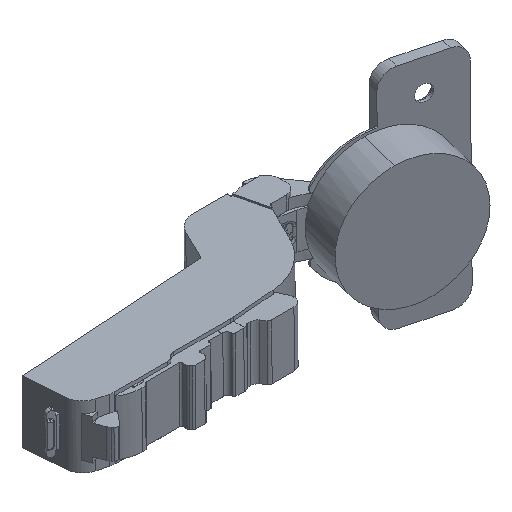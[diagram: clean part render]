
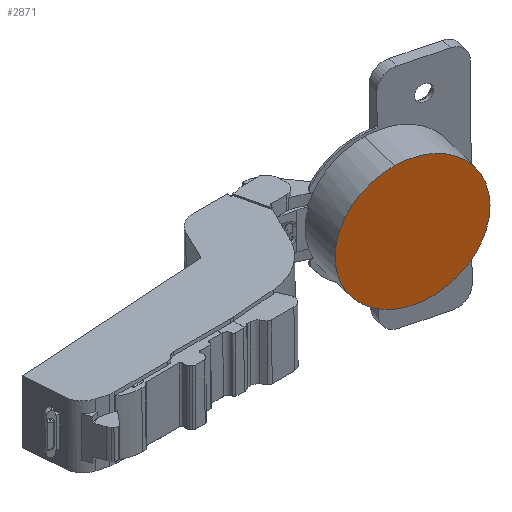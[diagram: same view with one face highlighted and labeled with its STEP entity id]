
A CAD part, isometric view. The second image highlights one B-rep face of the part: STEP entity #2871.
In plain terms, the highlighted planar face has unit normal (-0.254, -0.967, 0.009).
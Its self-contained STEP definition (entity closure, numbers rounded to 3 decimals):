
#414 = EDGE_CURVE ( 'NONE', #4063, #1382, #7794, .T. ) ;
#582 = CARTESIAN_POINT ( 'NONE',  ( 39.153, 10.463, -17.995 ) ) ;
#704 = CARTESIAN_POINT ( 'NONE',  ( 5.814, 19.253, -14.665 ) ) ;
#907 = CARTESIAN_POINT ( 'NONE',  ( 6.748, 19.038, -11.414 ) ) ;
#1382 = VERTEX_POINT ( 'NONE', #12870 ) ;
#1632 = VECTOR ( 'NONE', #11060, 1000. ) ;
#1983 = VERTEX_POINT ( 'NONE', #4012 ) ;
#2011 = CARTESIAN_POINT ( 'NONE',  ( 10.381, 18.136, -5.797 ) ) ;
#2186 = EDGE_LOOP ( 'NONE', ( #3211, #12777, #11459, #6386, #3529, #6508 ) ) ;
#2323 = DIRECTION ( 'NONE',  ( 0.967, -0.254, 0.002 ) ) ;
#2772 = CARTESIAN_POINT ( 'NONE',  ( 18.462, 15.739, -34.981 ) ) ;
#2871 = ADVANCED_FACE ( 'NONE', ( #13757 ), #12450, .F. ) ;
#2921 = CARTESIAN_POINT ( 'NONE',  ( 7.133, 18.945, -10.522 ) ) ;
#2987 = DIRECTION ( 'NONE',  ( 0.254, 0.967, -0.009 ) ) ;
#2994 = CARTESIAN_POINT ( 'NONE',  ( 17.555, 16.293, -1.355 ) ) ;
#3056 = CARTESIAN_POINT ( 'NONE',  ( 5.496, 19.314, -17.064 ) ) ;
#3191 = VERTEX_POINT ( 'NONE', #6798 ) ;
#3211 = ORIENTED_EDGE ( 'NONE', *, *, #11324, .T. ) ;
#3426 = CARTESIAN_POINT ( 'NONE',  ( 22.323, 14.884, -18.037 ) ) ;
#3529 = ORIENTED_EDGE ( 'NONE', *, *, #7769, .T. ) ;
#3905 = CARTESIAN_POINT ( 'NONE',  ( 16.224, 16.638, -1.828 ) ) ;
#3966 = CARTESIAN_POINT ( 'NONE',  ( 18.006, 16.176, -1.223 ) ) ;
#4012 = CARTESIAN_POINT ( 'NONE',  ( 18.462, 16.057, -1.111 ) ) ;
#4040 = CARTESIAN_POINT ( 'NONE',  ( 9.433, 18.375, -6.871 ) ) ;
#4063 = VERTEX_POINT ( 'NONE', #2772 ) ;
#4106 = CIRCLE ( 'NONE', #8126, 17.401 ) ;
#4813 = CARTESIAN_POINT ( 'NONE',  ( 18.462, 15.846, -23.61 ) ) ;
#4884 = CARTESIAN_POINT ( 'NONE',  ( 14.097, 17.187, -2.847 ) ) ;
#5018 = CARTESIAN_POINT ( 'NONE',  ( 34.219, 11.707, -23.571 ) ) ;
#5022 = CARTESIAN_POINT ( 'NONE',  ( 10.718, 18.051, -5.455 ) ) ;
#5026 = AXIS2_PLACEMENT_3D ( 'NONE', #5018, #2987, #6267 ) ;
#5163 = EDGE_CURVE ( 'NONE', #9237, #4063, #6060, .T. ) ;
#5722 = DIRECTION ( 'NONE',  ( 0.967, -0.254, 0. ) ) ;
#5981 = CARTESIAN_POINT ( 'NONE',  ( 18.462, 15.846, -23.61 ) ) ;
#5999 = CARTESIAN_POINT ( 'NONE',  ( 6.148, 19.178, -13.249 ) ) ;
#6060 = CIRCLE ( 'NONE', #8496, 17.4 ) ;
#6267 = DIRECTION ( 'NONE',  ( 0., -0.009, -1. ) ) ;
#6386 = ORIENTED_EDGE ( 'NONE', *, *, #414, .T. ) ;
#6508 = ORIENTED_EDGE ( 'NONE', *, *, #9296, .T. ) ;
#6515 = DIRECTION ( 'NONE',  ( -0.254, -0.967, 0.009 ) ) ;
#6798 = CARTESIAN_POINT ( 'NONE',  ( 18.462, 16.057, -1.109 ) ) ;
#7184 = CARTESIAN_POINT ( 'NONE',  ( 18.462, 16.057, -1.111 ) ) ;
#7252 = CARTESIAN_POINT ( 'NONE',  ( 11.763, 17.785, -4.48 ) ) ;
#7312 = CARTESIAN_POINT ( 'NONE',  ( 5.577, 19.302, -16.099 ) ) ;
#7538 = DIRECTION ( 'NONE',  ( -0.254, -0.967, 0.009 ) ) ;
#7769 = EDGE_CURVE ( 'NONE', #1382, #9461, #4106, .T. ) ;
#7794 = LINE ( 'NONE', #4813, #1632 ) ;
#8126 = AXIS2_PLACEMENT_3D ( 'NONE', #9706, #6515, #2323 ) ;
#8159 = CARTESIAN_POINT ( 'NONE',  ( 6.284, 19.147, -12.786 ) ) ;
#8496 = AXIS2_PLACEMENT_3D ( 'NONE', #10171, #10930, #5722 ) ;
#9143 = B_SPLINE_CURVE_WITH_KNOTS ( 'NONE', 3,
 ( #7184, #3966, #2994, #13631, #3905, #13560, #4884, #10305, #7252, #5022, #2011, #9265, #4040, #13494, #12455, #2921, #907, #8159, #5999, #11409, #704, #7312, #3056, #12523 ),
 .UNSPECIFIED., .F., .F.,
 ( 4, 2, 2, 2, 2, 2, 2, 2, 2, 2, 2, 4 ),
 ( 0.574, 0.601, 0.628, 0.681, 0.734, 0.761, 0.787, 0.84, 0.894, 0.92, 0.947, 1. ),
 .UNSPECIFIED. ) ;
#9237 = VERTEX_POINT ( 'NONE', #13580 ) ;
#9265 = CARTESIAN_POINT ( 'NONE',  ( 9.739, 18.298, -6.505 ) ) ;
#9296 = EDGE_CURVE ( 'NONE', #9461, #3191, #10758, .T. ) ;
#9461 = VERTEX_POINT ( 'NONE', #582 ) ;
#9706 = CARTESIAN_POINT ( 'NONE',  ( 22.323, 14.884, -18.037 ) ) ;
#10171 = CARTESIAN_POINT ( 'NONE',  ( 22.323, 14.884, -18.037 ) ) ;
#10282 = AXIS2_PLACEMENT_3D ( 'NONE', #3426, #7538, #10805 ) ;
#10305 = CARTESIAN_POINT ( 'NONE',  ( 12.511, 17.594, -3.892 ) ) ;
#10758 = CIRCLE ( 'NONE', #10282, 17.401 ) ;
#10805 = DIRECTION ( 'NONE',  ( 0.967, -0.254, 0.002 ) ) ;
#10812 = EDGE_CURVE ( 'NONE', #1983, #9237, #9143, .T. ) ;
#10913 = VECTOR ( 'NONE', #13688, 1000. ) ;
#10930 = DIRECTION ( 'NONE',  ( -0.254, -0.967, 0.009 ) ) ;
#11060 = DIRECTION ( 'NONE',  ( 0., -0.009, -1. ) ) ;
#11324 = EDGE_CURVE ( 'NONE', #3191, #1983, #12230, .T. ) ;
#11409 = CARTESIAN_POINT ( 'NONE',  ( 5.913, 19.231, -14.188 ) ) ;
#11459 = ORIENTED_EDGE ( 'NONE', *, *, #5163, .T. ) ;
#12230 = LINE ( 'NONE', #5981, #10913 ) ;
#12450 = PLANE ( 'NONE',  #5026 ) ;
#12455 = CARTESIAN_POINT ( 'NONE',  ( 8.036, 18.724, -8.825 ) ) ;
#12523 = CARTESIAN_POINT ( 'NONE',  ( 5.494, 19.305, -18.037 ) ) ;
#12777 = ORIENTED_EDGE ( 'NONE', *, *, #10812, .T. ) ;
#12870 = CARTESIAN_POINT ( 'NONE',  ( 18.462, 15.739, -34.983 ) ) ;
#13494 = CARTESIAN_POINT ( 'NONE',  ( 8.56, 18.594, -8.011 ) ) ;
#13560 = CARTESIAN_POINT ( 'NONE',  ( 14.926, 16.974, -2.396 ) ) ;
#13580 = CARTESIAN_POINT ( 'NONE',  ( 5.494, 19.305, -18.037 ) ) ;
#13631 = CARTESIAN_POINT ( 'NONE',  ( 16.665, 16.524, -1.657 ) ) ;
#13688 = DIRECTION ( 'NONE',  ( 0., -0.009, -1. ) ) ;
#13757 = FACE_OUTER_BOUND ( 'NONE', #2186, .T. ) ;
